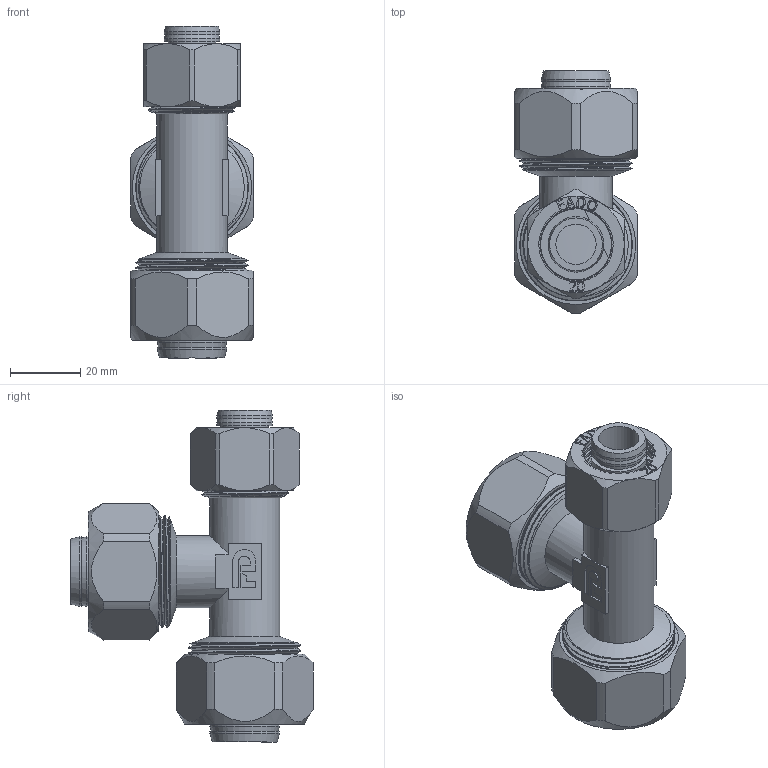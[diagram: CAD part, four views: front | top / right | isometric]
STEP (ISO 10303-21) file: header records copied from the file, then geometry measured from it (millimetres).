
FILE_DESCRIPTION(/* description */ (''),/* implementation_level */ '2;1');
FILE_NAME(/* name */ 'C:\Users\Doom\Desktop\Фадотех\Обжим\RFT09 26x26x20 30.03.2020\RFT09 26x26x20 30.03.2020_2D.stp',/* time_stamp */ '2022-06-01T12:22:25+03:00',/* author */ ('Doom'),/* organization */ (''),/* preprocessor_version */ 'ST-DEVELOPER v18',/* originating_system */ 'Autodesk Inventor 2020',/* authorisation */ '');
FILE_SCHEMA (('AUTOMOTIVE_DESIGN { 1 0 10303 214 3 1 1 }'));
Products named in the file (8): RFT09 26x26x20 30.03.2020_2D; RFT08 26 30.03.2020; FADO MC Nut-26 15.02.2020; FADO MC Nut-20 15.02.2020; FADO MC Socket-20 15.02.2020; FADO MC Socket-26 15.02.2020; Olive 20 15.02.2020; Olive 26 15.02.2020
Assembly tree (10 placements, depth 2):
  RFT09 26x26x20 30.03.2020_2D
    RFT08 26 30.03.2020
    FADO MC Nut-26 15.02.2020  x2
    FADO MC Nut-20 15.02.2020
    FADO MC Socket-20 15.02.2020
    FADO MC Socket-26 15.02.2020  x2
    Olive 20 15.02.2020
    Olive 26 15.02.2020  x2
Bounding box: 35 x 69 x 94.5 mm (x, y, z)
Volume: 49677.1 mm3; surface area: 63157.1 mm2
Topology: 16 solids, 16 shells, 1532 faces, 4234 edges, 2854 vertices
Faces by surface type: bspline 792, plane 441, cylinder 230, cone 61, torus 8
Full cylindrical faces by diameter (mm): 11.5 x1, 12 x1, 13.531 x2, 14.5 x1, 15.5 x2, 15.802 x5, 16 x2, 17.391 x1, 17.5 x1, 17.6 x4, 18 x1, 19.8 x10, 20 x1, 20.5 x2, 21 x2, 22.776 x10, 23 x1, 24 x4, 24.1 x1, 24.5 x2, 25 x9, 26.5 x2, 29.776 x4, 30 x2, 30.517 x22, 30.6 x2, 32 x18
Entity records: 64812 total; most frequent: CARTESIAN_POINT 40769, ORIENTED_EDGE 5868, DIRECTION 3329, EDGE_CURVE 2934, VERTEX_POINT 1978, B_SPLINE_CURVE_WITH_KNOTS 1202, EDGE_LOOP 1174, LINE 1151
